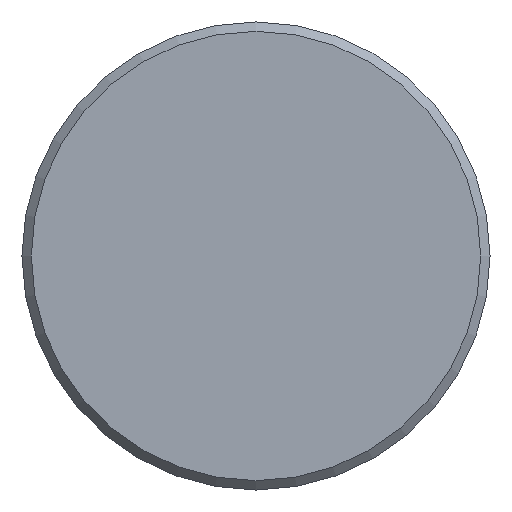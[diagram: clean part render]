
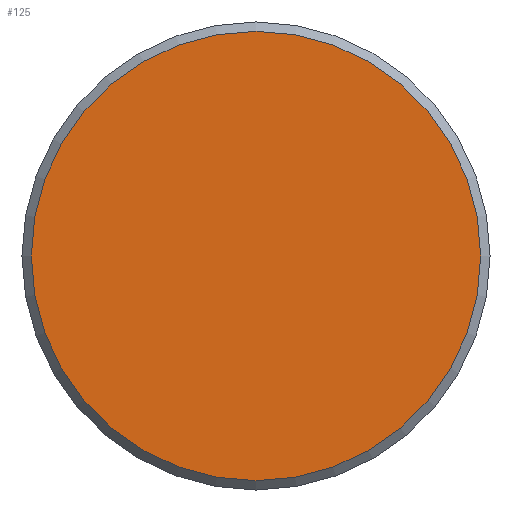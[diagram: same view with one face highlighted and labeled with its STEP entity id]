
A CAD part, front view. The second image highlights one B-rep face of the part: STEP entity #125.
In plain terms, the highlighted planar face has unit normal (0, -1, 0).
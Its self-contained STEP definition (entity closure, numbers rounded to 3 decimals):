
#19=PLANE('',#158);
#29=FACE_OUTER_BOUND('',#39,.T.);
#39=EDGE_LOOP('',(#110));
#58=CIRCLE('',#154,12.);
#67=VERTEX_POINT('',#227);
#79=EDGE_CURVE('',#67,#67,#58,.T.);
#110=ORIENTED_EDGE('',*,*,#79,.F.);
#125=ADVANCED_FACE('',(#29),#19,.F.);
#154=AXIS2_PLACEMENT_3D('',#228,#190,#191);
#158=AXIS2_PLACEMENT_3D('',#236,#200,#201);
#190=DIRECTION('center_axis',(0.,1.,0.));
#191=DIRECTION('ref_axis',(-1.,0.,0.));
#200=DIRECTION('center_axis',(0.,1.,0.));
#201=DIRECTION('ref_axis',(-1.,0.,0.));
#227=CARTESIAN_POINT('',(12.,-125.,0.));
#228=CARTESIAN_POINT('Origin',(0.,-125.,0.));
#236=CARTESIAN_POINT('Origin',(0.,-125.,0.));
